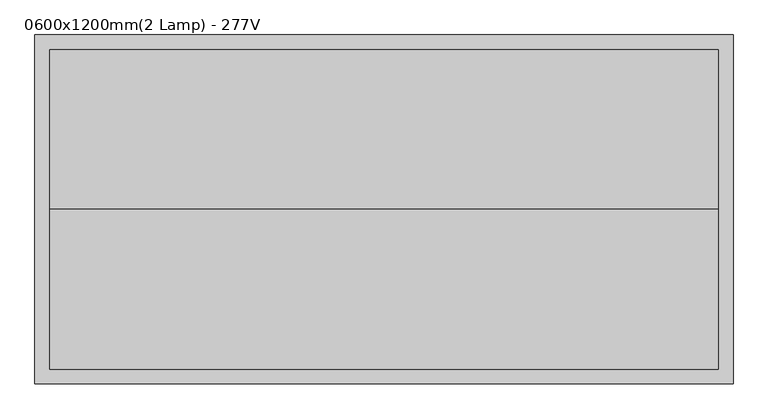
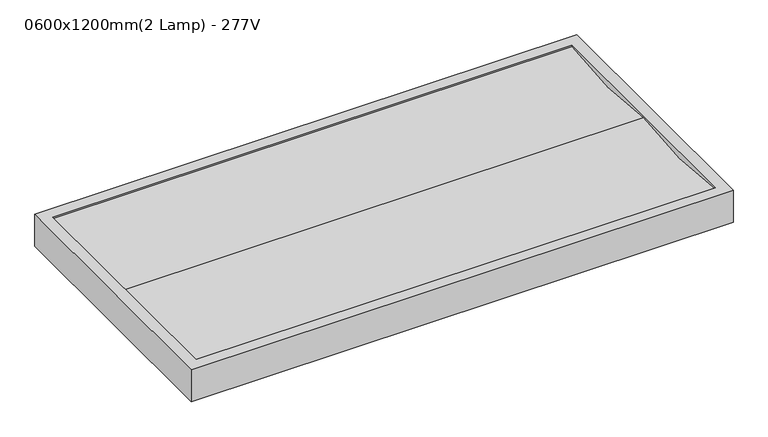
"""IFC4 building model written with IfcOpenShell, lengths in millimetres: light fixture geometry, M_Recessed Volumetric Light : 0600x1200mm(2 Lamp) - 277V."""

from ifc_helpers import new_model, si_unit, point, frame, frame_2d, origin, place, context, project, spatial, polyline, circle_curve, trimmed, segment, composite_curve, outline, extrude, faceted_brep, source, transform, mapped, element, save


def light_fixture_0600x1200mm_2_lamp_277v_2e4905c6(model_context):
    return source(origin(), model_context, "Body", "SolidModel", [
        extrude(outline(composite_curve([segment(trimmed(circle_curve(frame_2d((-162.7, 778.6669938)), 793.9639135), [point((-300.0, -3.3351839))], [point((-25.4, -3.3351839))], True, "CARTESIAN"), True, "CONTINUOUS"), segment(polyline([(-25.4, -3.3351839), (-25.4, -49.6), (-574.6, -49.6), (-574.6, -3.3351839)]), True, "CONTINUOUS"), segment(trimmed(circle_curve(frame_2d((-437.3, 778.6669938)), 793.9639135), [point((-574.6, -3.3351839))], [point((-300.0, -3.3351839))], True, "CARTESIAN"), True, "CONTINUOUS")], self_intersect=False)), frame((-574.6, 0.0, 0.0), z_axis=(1.0, 0.0, 0.0), x_axis=(0.0, 1.0, 0.0)), (0.0, 0.0, 1.0), 1149.2),
        faceted_brep([(600.0, -600.0, 0.0), (600.0, -600.0, -75.0), (600.0, 0.0, -75.0), (600.0, 0.0, 0.0), (-600.0, 0.0, 0.0), (-600.0, 0.0, -75.0), (-600.0, -600.0, -75.0), (-600.0, -600.0, 0.0), (574.6, -25.4, 0.0), (574.6, -574.6, 0.0), (-574.6, -574.6, 0.0), (-574.6, -25.4, 0.0), (-574.6, -25.4, -49.6), (574.6, -25.4, -49.6), (-574.6, -574.6, -49.6), (574.6, -574.6, -49.6)], [[[0, 1, 2, 3]], [[4, 5, 6, 7]], [[0, 3, 4, 7], [8, 9, 10, 11]], [[8, 11, 12, 13]], [[13, 12, 14, 15]], [[15, 14, 10, 9]], [[1, 0, 7, 6]], [[2, 1, 6, 5]], [[3, 2, 5, 4]], [[9, 8, 13, 15]], [[11, 10, 14, 12]]]),
    ])


if __name__ == "__main__":
    model = new_model("IFC4")
    model_context = context("Model", 3, world=origin())
    ifc_project = project(units=[si_unit("LENGTHUNIT", "METRE", prefix="MILLI")], contexts=[model_context])
    site = spatial("IfcSite", under=ifc_project)
    building = spatial("IfcBuilding", under=site)
    placement = place(None, origin())
    light_fixture_0600x1200mm_2_lamp_277v_shape = light_fixture_0600x1200mm_2_lamp_277v_2e4905c6(model_context)
    element("IfcLightFixture", 1, ObjectType="M_Recessed Volumetric Light : 0600x1200mm(2 Lamp) - 277V", at=placement, inside=building, context=model_context, shape_type="MappedRepresentation", body=[
        mapped(light_fixture_0600x1200mm_2_lamp_277v_shape, transform((0.0, 0.0, 0.0), x_axis=(1.0, 0.0, 0.0), y_axis=(0.0, 1.0, 0.0), z_axis=(0.0, 0.0, 1.0))),
    ])
    save(model, "model.ifc")
